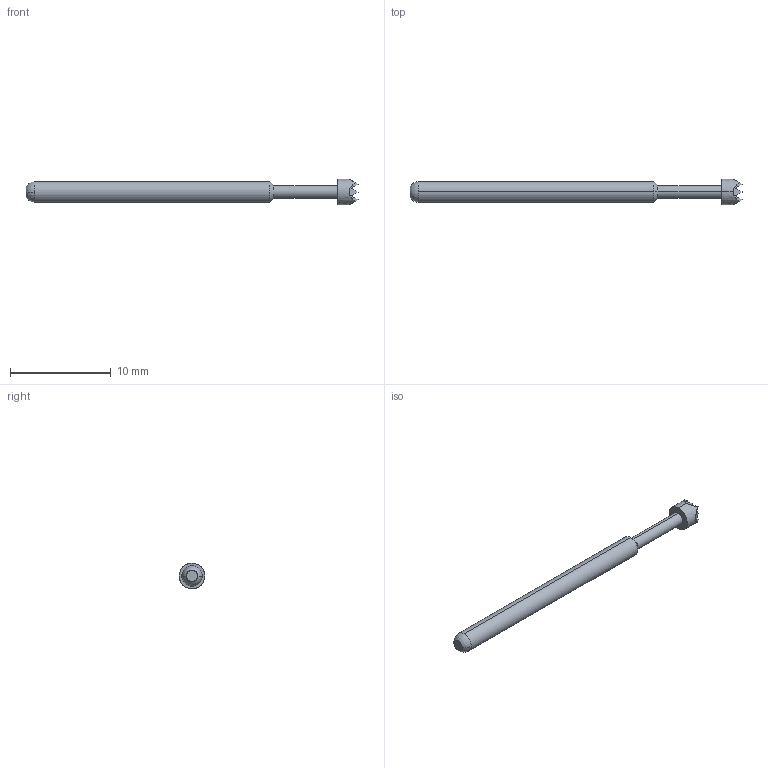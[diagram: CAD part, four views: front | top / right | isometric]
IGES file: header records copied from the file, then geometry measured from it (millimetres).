
Start section: SolidWorks IGES file using analytic representation for surfaces
Global section: file name: C:\Documents and Settings\mrumschlag\Desktop\changes\new\test\EPA-3H.IGS; native system: SolidWorks 2008; preprocessor: SolidWorks 2008; author: mrumschlag; date: 110414.162808; units: inch
Bounding box: 33.02 x 2.54 x 2.54 mm (x, y, z)
Surface area: 208.9 mm2 (no closed solid volume)
Topology: 0 solids, 0 shells, 40 faces, 250 edges, 250 vertices
Faces by surface type: bspline 30, revolution 10
